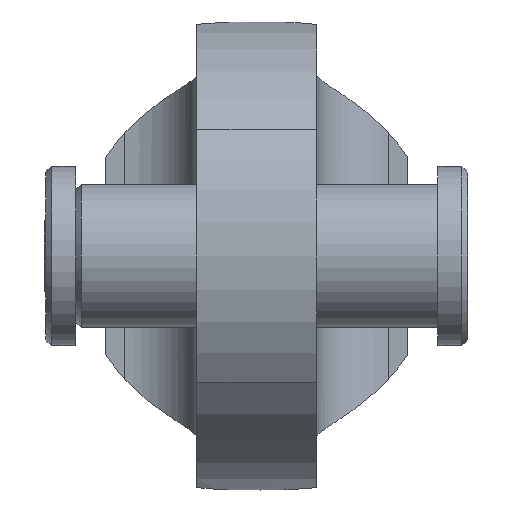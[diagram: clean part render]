
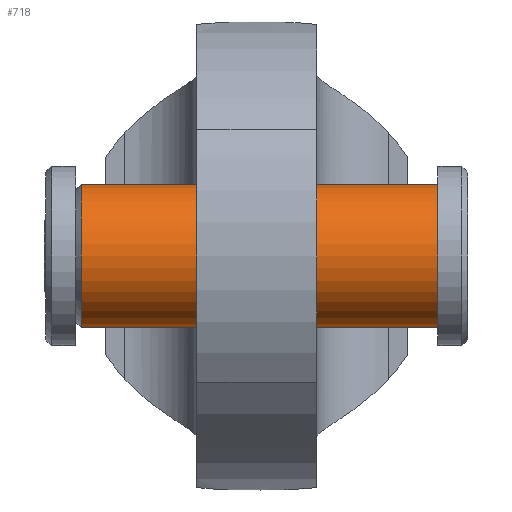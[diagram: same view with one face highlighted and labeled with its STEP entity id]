
A CAD part, left-side view. The second image highlights one B-rep face of the part: STEP entity #718.
In plain terms, the highlighted cylindrical face has radius 12 mm (diameter 24 mm), a full revolution.
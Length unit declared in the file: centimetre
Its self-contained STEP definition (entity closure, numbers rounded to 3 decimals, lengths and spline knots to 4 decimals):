
#95=CYLINDRICAL_SURFACE('',#804,1.2);
#145=FACE_BOUND('',#265,.T.);
#191=FACE_OUTER_BOUND('',#264,.T.);
#264=EDGE_LOOP('',(#603));
#265=EDGE_LOOP('',(#604));
#309=CIRCLE('',#802,1.2);
#310=CIRCLE('',#805,1.2);
#372=VERTEX_POINT('',#1291);
#373=VERTEX_POINT('',#1295);
#451=EDGE_CURVE('',#372,#372,#309,.T.);
#452=EDGE_CURVE('',#373,#373,#310,.T.);
#603=ORIENTED_EDGE('',*,*,#452,.F.);
#604=ORIENTED_EDGE('',*,*,#451,.F.);
#718=ADVANCED_FACE('',(#191,#145),#95,.T.);
#802=AXIS2_PLACEMENT_3D('',#1292,#990,#991);
#804=AXIS2_PLACEMENT_3D('',#1294,#994,#995);
#805=AXIS2_PLACEMENT_3D('',#1296,#996,#997);
#990=DIRECTION('center_axis',(0.,1.,0.));
#991=DIRECTION('ref_axis',(1.,0.,0.));
#994=DIRECTION('center_axis',(0.,-1.,0.));
#995=DIRECTION('ref_axis',(1.,0.,0.));
#996=DIRECTION('center_axis',(0.,-1.,0.));
#997=DIRECTION('ref_axis',(1.,0.,0.));
#1291=CARTESIAN_POINT('',(-1.2,2.925,0.));
#1292=CARTESIAN_POINT('Origin',(0.,2.925,0.));
#1294=CARTESIAN_POINT('Origin',(0.,0.,
0.));
#1295=CARTESIAN_POINT('',(-1.2,-3.025,0.));
#1296=CARTESIAN_POINT('Origin',(0.,-3.025,0.));
